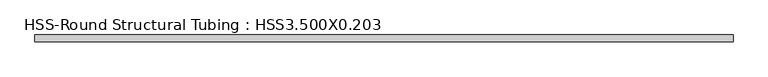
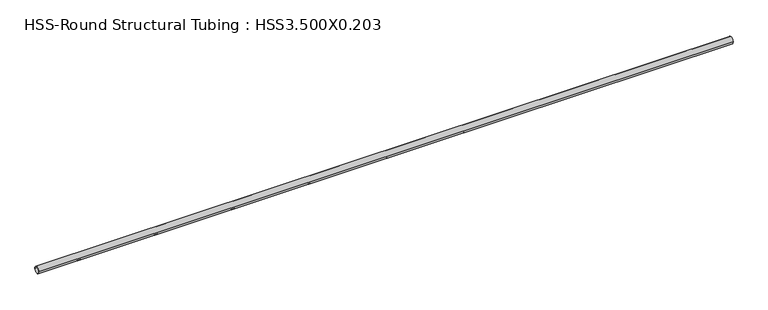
"""IFC4 building model written with IfcOpenShell, lengths in millimetres: member geometry, HSS-Round Structural Tubing : HSS3.500X0.203."""

from ifc_helpers import new_model, si_unit, point, frame, origin, origin_2d, place, context, project, spatial, circle_curve, trimmed, segment, composite_curve, outline, extrude, source, transform, mapped, element, save


def hss_round_structural_tubing_hss3_500x0_203_1a88a494(model_context):
    return source(origin(), model_context, "Body", "SweptSolid", [
        extrude(outline(composite_curve([segment(trimmed(circle_curve(origin_2d(), 44.45), [point((-44.45, 0.0))], [point((44.45, 0.0))], False, "CARTESIAN"), True, "CONTINUOUS"), segment(trimmed(circle_curve(origin_2d(), 44.45), [point((44.45, 0.0))], [point((-44.45, 0.0))], False, "CARTESIAN"), True, "CONTINUOUS")], self_intersect=False), holes=[composite_curve([segment(trimmed(circle_curve(origin_2d(), 39.6494), [point((39.6494, 0.0))], [point((-39.6494, 0.0))], True, "CARTESIAN"), True, "CONTINUOUS"), segment(trimmed(circle_curve(origin_2d(), 39.6494), [point((-39.6494, 0.0))], [point((39.6494, 0.0))], True, "CARTESIAN"), True, "CONTINUOUS")], self_intersect=False)]), frame((-4613.3173395, 0.0, 0.0), z_axis=(1.0, 0.0, 0.0), x_axis=(0.0, 1.0, 0.0)), (0.0, 0.0, 1.0), 9223.4696524),
    ])


if __name__ == "__main__":
    model = new_model("IFC4")
    model_context = context("Model", 3, world=origin())
    ifc_project = project(units=[si_unit("LENGTHUNIT", "METRE", prefix="MILLI")], contexts=[model_context])
    site = spatial("IfcSite", under=ifc_project)
    building = spatial("IfcBuilding", under=site)
    placement = place(None, origin())
    hss_round_structural_tubing_hss3_500x0_203_shape = hss_round_structural_tubing_hss3_500x0_203_1a88a494(model_context)
    element("IfcMember", 1, ObjectType="HSS-Round Structural Tubing : HSS3.500X0.203", at=placement, inside=building, context=model_context, shape_type="MappedRepresentation", body=[
        mapped(hss_round_structural_tubing_hss3_500x0_203_shape, transform((0.0, 0.0, 0.0), x_axis=(1.0, 0.0, 0.0), y_axis=(0.0, 1.0, 0.0), z_axis=(0.0, 0.0, 1.0))),
    ])
    save(model, "model.ifc")
